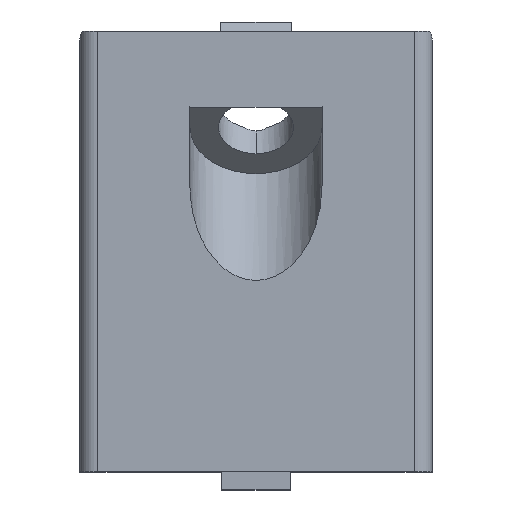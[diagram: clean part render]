
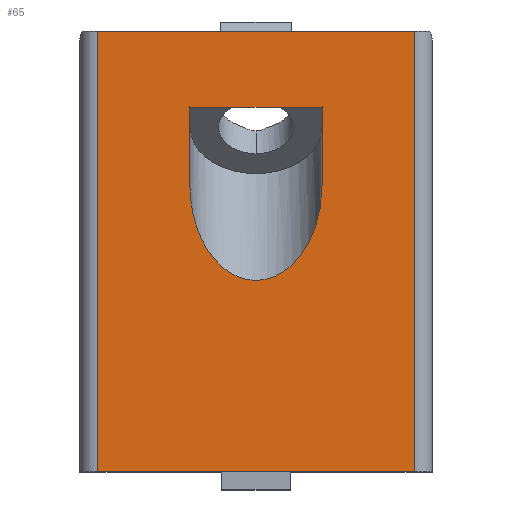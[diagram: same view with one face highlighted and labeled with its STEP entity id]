
A CAD part, top view. The second image highlights one B-rep face of the part: STEP entity #65.
In plain terms, the highlighted planar face has unit normal (0, 0, 1).
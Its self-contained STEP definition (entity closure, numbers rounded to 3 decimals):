
#36 = DIRECTION ( 'NONE',  ( 0., 1., 0. ) ) ;
#65 = ADVANCED_FACE ( 'NONE', ( #1730, #1400 ), #569, .F. ) ;
#82 = VERTEX_POINT ( 'NONE', #122 ) ;
#85 = VECTOR ( 'NONE', #1228, 1000. ) ;
#98 = VECTOR ( 'NONE', #1356, 1000. ) ;
#100 = EDGE_CURVE ( 'NONE', #82, #1147, #914, .T. ) ;
#111 = ORIENTED_EDGE ( 'NONE', *, *, #1332, .T. ) ;
#122 = CARTESIAN_POINT ( 'NONE',  ( 18., 0., 0. ) ) ;
#124 = DIRECTION ( 'NONE',  ( 0., 1., 0. ) ) ;
#132 = ORIENTED_EDGE ( 'NONE', *, *, #1076, .T. ) ;
#133 = DIRECTION ( 'NONE',  ( -1., 0., 0. ) ) ;
#194 = VECTOR ( 'NONE', #124, 1000. ) ;
#211 = ORIENTED_EDGE ( 'NONE', *, *, #565, .T. ) ;
#271 = DIRECTION ( 'NONE',  ( -1., 0., 0. ) ) ;
#290 = DIRECTION ( 'NONE',  ( 0., 0., -1. ) ) ;
#311 = LINE ( 'NONE', #962, #1468 ) ;
#375 = CARTESIAN_POINT ( 'NONE',  ( -7.5, 11.001, 0. ) ) ;
#401 = CARTESIAN_POINT ( 'NONE',  ( 20., 0., 0. ) ) ;
#412 = VECTOR ( 'NONE', #1476, 1000. ) ;
#459 = VERTEX_POINT ( 'NONE', #1828 ) ;
#480 = CARTESIAN_POINT ( 'NONE',  ( -18., 0., 0. ) ) ;
#481 = DIRECTION ( 'NONE',  ( 1., 0., 0. ) ) ;
#534 = CARTESIAN_POINT ( 'NONE',  ( 7.5, 11.001, 0. ) ) ;
#565 = EDGE_CURVE ( 'NONE', #1195, #459, #311, .T. ) ;
#569 = PLANE ( 'NONE',  #1656 ) ;
#619 = CARTESIAN_POINT ( 'NONE',  ( -7.5, 32.495, 0. ) ) ;
#692 = EDGE_CURVE ( 'NONE', #82, #1496, #1292, .T. ) ;
#698 = CARTESIAN_POINT ( 'NONE',  ( -7.5, 32.495, 0. ) ) ;
#715 = EDGE_CURVE ( 'NONE', #1526, #1432, #1578, .T. ) ;
#799 = CARTESIAN_POINT ( 'NONE',  ( 18., 0., 0. ) ) ;
#874 = EDGE_CURVE ( 'NONE', #1841, #1147, #1666, .T. ) ;
#898 = ORIENTED_EDGE ( 'NONE', *, *, #715, .T. ) ;
#914 = LINE ( 'NONE', #1333, #98 ) ;
#918 = EDGE_LOOP ( 'NONE', ( #898, #111, #211, #132 ) ) ;
#962 = CARTESIAN_POINT ( 'NONE',  ( 20., 41.402, 0. ) ) ;
#1076 = EDGE_CURVE ( 'NONE', #459, #1526, #1647, .T. ) ;
#1141 = CARTESIAN_POINT ( 'NONE',  ( -18., 50., 0. ) ) ;
#1147 = VERTEX_POINT ( 'NONE', #1489 ) ;
#1166 = LINE ( 'NONE', #1194, #1501 ) ;
#1194 = CARTESIAN_POINT ( 'NONE',  ( 20., 50., 0. ) ) ;
#1195 = VERTEX_POINT ( 'NONE', #1353 ) ;
#1208 = ORIENTED_EDGE ( 'NONE', *, *, #1360, .T. ) ;
#1212 = LINE ( 'NONE', #1903, #194 ) ;
#1226 = CARTESIAN_POINT ( 'NONE',  ( 18., 50., 0. ) ) ;
#1228 = DIRECTION ( 'NONE',  ( 0., -1., 0. ) ) ;
#1292 = LINE ( 'NONE', #799, #1623 ) ;
#1330 = CARTESIAN_POINT ( 'NONE',  ( 7.5, 0., 0. ) ) ;
#1332 = EDGE_CURVE ( 'NONE', #1432, #1195, #1212, .T. ) ;
#1333 = CARTESIAN_POINT ( 'NONE',  ( 20., 0., 0. ) ) ;
#1353 = CARTESIAN_POINT ( 'NONE',  ( -7.5, 41.402, 0. ) ) ;
#1356 = DIRECTION ( 'NONE',  ( -1., 0., 0. ) ) ;
#1360 = EDGE_CURVE ( 'NONE', #1496, #1841, #1166, .T. ) ;
#1376 = ORIENTED_EDGE ( 'NONE', *, *, #100, .F. ) ;
#1400 = FACE_OUTER_BOUND ( 'NONE', #1759, .T. ) ;
#1432 = VERTEX_POINT ( 'NONE', #619 ) ;
#1468 = VECTOR ( 'NONE', #481, 1000. ) ;
#1476 = DIRECTION ( 'NONE',  ( 0., -1., 0. ) ) ;
#1489 = CARTESIAN_POINT ( 'NONE',  ( -18., 0., 0. ) ) ;
#1496 = VERTEX_POINT ( 'NONE', #1226 ) ;
#1501 = VECTOR ( 'NONE', #133, 1000. ) ;
#1526 = VERTEX_POINT ( 'NONE', #1658 ) ;
#1565 = CARTESIAN_POINT ( 'NONE',  ( 7.5, 32.495, 0. ) ) ;
#1578 =( BOUNDED_CURVE ( )  B_SPLINE_CURVE ( 3, ( #1565, #534, #375, #698 ),
 .UNSPECIFIED., .F., .T. ) 
 B_SPLINE_CURVE_WITH_KNOTS ( ( 4, 4 ),
 ( 1.571, 4.712 ),
 .UNSPECIFIED. ) 
 CURVE ( )  GEOMETRIC_REPRESENTATION_ITEM ( )  RATIONAL_B_SPLINE_CURVE ( ( 1., 0.333, 0.333, 1. ) ) 
 REPRESENTATION_ITEM ( '' )  );
#1618 = ORIENTED_EDGE ( 'NONE', *, *, #874, .T. ) ;
#1623 = VECTOR ( 'NONE', #36, 1000. ) ;
#1647 = LINE ( 'NONE', #1330, #412 ) ;
#1656 = AXIS2_PLACEMENT_3D ( 'NONE', #401, #290, #271 ) ;
#1658 = CARTESIAN_POINT ( 'NONE',  ( 7.5, 32.495, 0. ) ) ;
#1666 = LINE ( 'NONE', #480, #85 ) ;
#1730 = FACE_BOUND ( 'NONE', #918, .T. ) ;
#1759 = EDGE_LOOP ( 'NONE', ( #1208, #1618, #1376, #1816 ) ) ;
#1816 = ORIENTED_EDGE ( 'NONE', *, *, #692, .T. ) ;
#1828 = CARTESIAN_POINT ( 'NONE',  ( 7.5, 41.402, 0. ) ) ;
#1841 = VERTEX_POINT ( 'NONE', #1141 ) ;
#1903 = CARTESIAN_POINT ( 'NONE',  ( -7.5, 0., 0. ) ) ;
